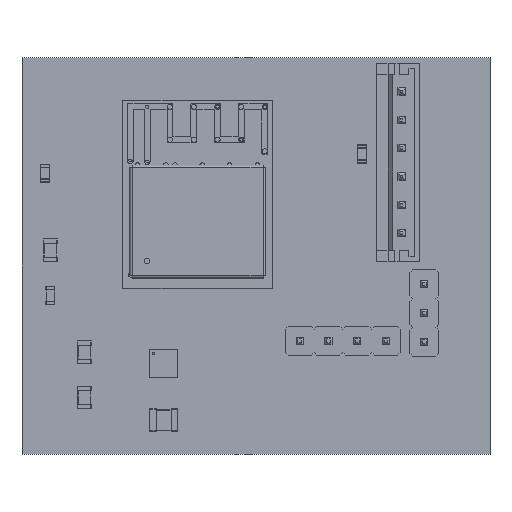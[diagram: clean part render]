
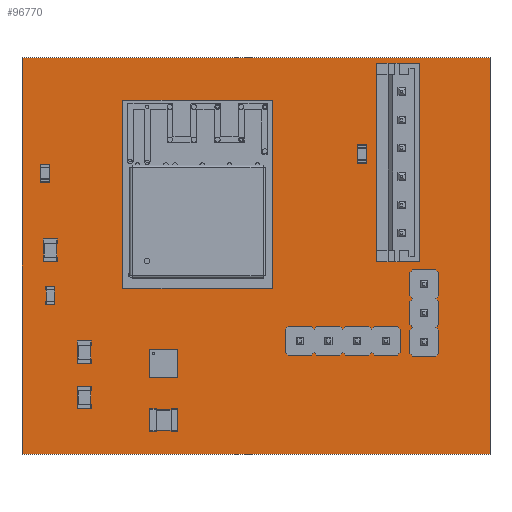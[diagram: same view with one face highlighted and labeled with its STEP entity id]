
A CAD part, top view. The second image highlights one B-rep face of the part: STEP entity #96770.
In plain terms, the highlighted planar face has unit normal (0, 0, 1).
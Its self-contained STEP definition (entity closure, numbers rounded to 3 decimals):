
#96515 = VERTEX_POINT('',#96516);
#96516 = CARTESIAN_POINT('',(52.8,-47.,1.51));
#96522 = EDGE_CURVE('',#96515,#96523,#96525,.T.);
#96523 = VERTEX_POINT('',#96524);
#96524 = CARTESIAN_POINT('',(11.5,-47.,1.51));
#96525 = LINE('',#96526,#96527);
#96526 = CARTESIAN_POINT('',(52.8,-47.,1.51));
#96527 = VECTOR('',#96528,1.);
#96528 = DIRECTION('',(-1.,0.,0.));
#96555 = VERTEX_POINT('',#96556);
#96556 = CARTESIAN_POINT('',(52.8,-12.,1.51));
#96562 = EDGE_CURVE('',#96555,#96515,#96563,.T.);
#96563 = LINE('',#96564,#96565);
#96564 = CARTESIAN_POINT('',(52.8,-12.,1.51));
#96565 = VECTOR('',#96566,1.);
#96566 = DIRECTION('',(0.,-1.,0.));
#96584 = EDGE_CURVE('',#96523,#96585,#96587,.T.);
#96585 = VERTEX_POINT('',#96586);
#96586 = CARTESIAN_POINT('',(11.5,-12.,1.51));
#96587 = LINE('',#96588,#96589);
#96588 = CARTESIAN_POINT('',(11.5,-47.,1.51));
#96589 = VECTOR('',#96590,1.);
#96590 = DIRECTION('',(0.,1.,0.));
#96770 = ADVANCED_FACE('',(#96771,#96782,#96793,#96804,#96815,#96826,
    #96837,#96848,#96859,#96870,#96881,#96892,#96903,#96914),#96925,.T.
  );
#96771 = FACE_BOUND('',#96772,.T.);
#96772 = EDGE_LOOP('',(#96773,#96774,#96775,#96781));
#96773 = ORIENTED_EDGE('',*,*,#96522,.F.);
#96774 = ORIENTED_EDGE('',*,*,#96562,.F.);
#96775 = ORIENTED_EDGE('',*,*,#96776,.F.);
#96776 = EDGE_CURVE('',#96585,#96555,#96777,.T.);
#96777 = LINE('',#96778,#96779);
#96778 = CARTESIAN_POINT('',(11.5,-12.,1.51));
#96779 = VECTOR('',#96780,1.);
#96780 = DIRECTION('',(1.,0.,0.));
#96781 = ORIENTED_EDGE('',*,*,#96584,.F.);
#96782 = FACE_BOUND('',#96783,.T.);
#96783 = EDGE_LOOP('',(#96784));
#96784 = ORIENTED_EDGE('',*,*,#96785,.T.);
#96785 = EDGE_CURVE('',#96786,#96786,#96788,.T.);
#96786 = VERTEX_POINT('',#96787);
#96787 = CARTESIAN_POINT('',(36.,-37.5,1.51));
#96788 = CIRCLE('',#96789,0.5);
#96789 = AXIS2_PLACEMENT_3D('',#96790,#96791,#96792);
#96790 = CARTESIAN_POINT('',(36.,-37.,1.51));
#96791 = DIRECTION('',(-0.,0.,-1.));
#96792 = DIRECTION('',(-0.,-1.,0.));
#96793 = FACE_BOUND('',#96794,.T.);
#96794 = EDGE_LOOP('',(#96795));
#96795 = ORIENTED_EDGE('',*,*,#96796,.T.);
#96796 = EDGE_CURVE('',#96797,#96797,#96799,.T.);
#96797 = VERTEX_POINT('',#96798);
#96798 = CARTESIAN_POINT('',(38.54,-37.5,1.51));
#96799 = CIRCLE('',#96800,0.5);
#96800 = AXIS2_PLACEMENT_3D('',#96801,#96802,#96803);
#96801 = CARTESIAN_POINT('',(38.54,-37.,1.51));
#96802 = DIRECTION('',(-0.,0.,-1.));
#96803 = DIRECTION('',(-0.,-1.,0.));
#96804 = FACE_BOUND('',#96805,.T.);
#96805 = EDGE_LOOP('',(#96806));
#96806 = ORIENTED_EDGE('',*,*,#96807,.T.);
#96807 = EDGE_CURVE('',#96808,#96808,#96810,.T.);
#96808 = VERTEX_POINT('',#96809);
#96809 = CARTESIAN_POINT('',(41.08,-37.5,1.51));
#96810 = CIRCLE('',#96811,0.5);
#96811 = AXIS2_PLACEMENT_3D('',#96812,#96813,#96814);
#96812 = CARTESIAN_POINT('',(41.08,-37.,1.51));
#96813 = DIRECTION('',(-0.,0.,-1.));
#96814 = DIRECTION('',(-0.,-1.,0.));
#96815 = FACE_BOUND('',#96816,.T.);
#96816 = EDGE_LOOP('',(#96817));
#96817 = ORIENTED_EDGE('',*,*,#96818,.T.);
#96818 = EDGE_CURVE('',#96819,#96819,#96821,.T.);
#96819 = VERTEX_POINT('',#96820);
#96820 = CARTESIAN_POINT('',(43.62,-37.5,1.51));
#96821 = CIRCLE('',#96822,0.5);
#96822 = AXIS2_PLACEMENT_3D('',#96823,#96824,#96825);
#96823 = CARTESIAN_POINT('',(43.62,-37.,1.51));
#96824 = DIRECTION('',(-0.,0.,-1.));
#96825 = DIRECTION('',(-0.,-1.,0.));
#96826 = FACE_BOUND('',#96827,.T.);
#96827 = EDGE_LOOP('',(#96828));
#96828 = ORIENTED_EDGE('',*,*,#96829,.T.);
#96829 = EDGE_CURVE('',#96830,#96830,#96832,.T.);
#96830 = VERTEX_POINT('',#96831);
#96831 = CARTESIAN_POINT('',(47.,-37.58,1.51));
#96832 = CIRCLE('',#96833,0.5);
#96833 = AXIS2_PLACEMENT_3D('',#96834,#96835,#96836);
#96834 = CARTESIAN_POINT('',(47.,-37.08,1.51));
#96835 = DIRECTION('',(-0.,0.,-1.));
#96836 = DIRECTION('',(-0.,-1.,0.));
#96837 = FACE_BOUND('',#96838,.T.);
#96838 = EDGE_LOOP('',(#96839));
#96839 = ORIENTED_EDGE('',*,*,#96840,.T.);
#96840 = EDGE_CURVE('',#96841,#96841,#96843,.T.);
#96841 = VERTEX_POINT('',#96842);
#96842 = CARTESIAN_POINT('',(47.,-35.04,1.51));
#96843 = CIRCLE('',#96844,0.5);
#96844 = AXIS2_PLACEMENT_3D('',#96845,#96846,#96847);
#96845 = CARTESIAN_POINT('',(47.,-34.54,1.51));
#96846 = DIRECTION('',(-0.,0.,-1.));
#96847 = DIRECTION('',(-0.,-1.,0.));
#96848 = FACE_BOUND('',#96849,.T.);
#96849 = EDGE_LOOP('',(#96850));
#96850 = ORIENTED_EDGE('',*,*,#96851,.T.);
#96851 = EDGE_CURVE('',#96852,#96852,#96854,.T.);
#96852 = VERTEX_POINT('',#96853);
#96853 = CARTESIAN_POINT('',(47.,-32.5,1.51));
#96854 = CIRCLE('',#96855,0.5);
#96855 = AXIS2_PLACEMENT_3D('',#96856,#96857,#96858);
#96856 = CARTESIAN_POINT('',(47.,-32.,1.51));
#96857 = DIRECTION('',(-0.,0.,-1.));
#96858 = DIRECTION('',(-0.,-1.,0.));
#96859 = FACE_BOUND('',#96860,.T.);
#96860 = EDGE_LOOP('',(#96861));
#96861 = ORIENTED_EDGE('',*,*,#96862,.T.);
#96862 = EDGE_CURVE('',#96863,#96863,#96865,.T.);
#96863 = VERTEX_POINT('',#96864);
#96864 = CARTESIAN_POINT('',(45.,-27.975,1.51));
#96865 = CIRCLE('',#96866,0.475);
#96866 = AXIS2_PLACEMENT_3D('',#96867,#96868,#96869);
#96867 = CARTESIAN_POINT('',(45.,-27.5,1.51));
#96868 = DIRECTION('',(-0.,0.,-1.));
#96869 = DIRECTION('',(-0.,-1.,0.));
#96870 = FACE_BOUND('',#96871,.T.);
#96871 = EDGE_LOOP('',(#96872));
#96872 = ORIENTED_EDGE('',*,*,#96873,.T.);
#96873 = EDGE_CURVE('',#96874,#96874,#96876,.T.);
#96874 = VERTEX_POINT('',#96875);
#96875 = CARTESIAN_POINT('',(45.,-25.475,1.51));
#96876 = CIRCLE('',#96877,0.475);
#96877 = AXIS2_PLACEMENT_3D('',#96878,#96879,#96880);
#96878 = CARTESIAN_POINT('',(45.,-25.,1.51));
#96879 = DIRECTION('',(-0.,0.,-1.));
#96880 = DIRECTION('',(-0.,-1.,0.));
#96881 = FACE_BOUND('',#96882,.T.);
#96882 = EDGE_LOOP('',(#96883));
#96883 = ORIENTED_EDGE('',*,*,#96884,.T.);
#96884 = EDGE_CURVE('',#96885,#96885,#96887,.T.);
#96885 = VERTEX_POINT('',#96886);
#96886 = CARTESIAN_POINT('',(45.,-22.975,1.51));
#96887 = CIRCLE('',#96888,0.475);
#96888 = AXIS2_PLACEMENT_3D('',#96889,#96890,#96891);
#96889 = CARTESIAN_POINT('',(45.,-22.5,1.51));
#96890 = DIRECTION('',(-0.,0.,-1.));
#96891 = DIRECTION('',(-0.,-1.,0.));
#96892 = FACE_BOUND('',#96893,.T.);
#96893 = EDGE_LOOP('',(#96894));
#96894 = ORIENTED_EDGE('',*,*,#96895,.T.);
#96895 = EDGE_CURVE('',#96896,#96896,#96898,.T.);
#96896 = VERTEX_POINT('',#96897);
#96897 = CARTESIAN_POINT('',(45.,-20.475,1.51));
#96898 = CIRCLE('',#96899,0.475);
#96899 = AXIS2_PLACEMENT_3D('',#96900,#96901,#96902);
#96900 = CARTESIAN_POINT('',(45.,-20.,1.51));
#96901 = DIRECTION('',(-0.,0.,-1.));
#96902 = DIRECTION('',(-0.,-1.,0.));
#96903 = FACE_BOUND('',#96904,.T.);
#96904 = EDGE_LOOP('',(#96905));
#96905 = ORIENTED_EDGE('',*,*,#96906,.T.);
#96906 = EDGE_CURVE('',#96907,#96907,#96909,.T.);
#96907 = VERTEX_POINT('',#96908);
#96908 = CARTESIAN_POINT('',(45.,-17.975,1.51));
#96909 = CIRCLE('',#96910,0.475);
#96910 = AXIS2_PLACEMENT_3D('',#96911,#96912,#96913);
#96911 = CARTESIAN_POINT('',(45.,-17.5,1.51));
#96912 = DIRECTION('',(-0.,0.,-1.));
#96913 = DIRECTION('',(-0.,-1.,0.));
#96914 = FACE_BOUND('',#96915,.T.);
#96915 = EDGE_LOOP('',(#96916));
#96916 = ORIENTED_EDGE('',*,*,#96917,.T.);
#96917 = EDGE_CURVE('',#96918,#96918,#96920,.T.);
#96918 = VERTEX_POINT('',#96919);
#96919 = CARTESIAN_POINT('',(45.,-15.475,1.51));
#96920 = CIRCLE('',#96921,0.475);
#96921 = AXIS2_PLACEMENT_3D('',#96922,#96923,#96924);
#96922 = CARTESIAN_POINT('',(45.,-15.,1.51));
#96923 = DIRECTION('',(-0.,0.,-1.));
#96924 = DIRECTION('',(-0.,-1.,0.));
#96925 = PLANE('',#96926);
#96926 = AXIS2_PLACEMENT_3D('',#96927,#96928,#96929);
#96927 = CARTESIAN_POINT('',(0.,0.,1.51));
#96928 = DIRECTION('',(0.,0.,1.));
#96929 = DIRECTION('',(1.,0.,-0.));
